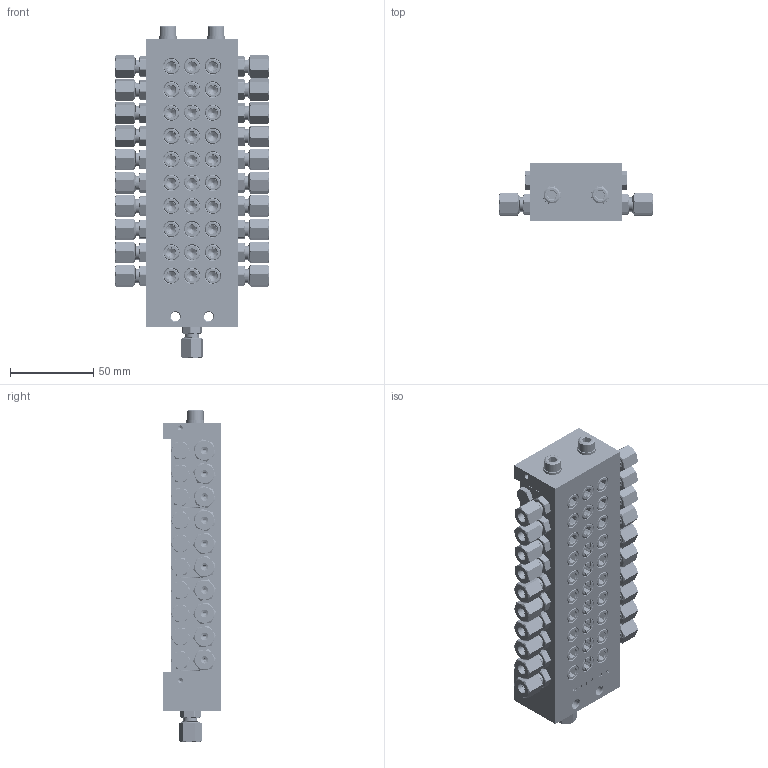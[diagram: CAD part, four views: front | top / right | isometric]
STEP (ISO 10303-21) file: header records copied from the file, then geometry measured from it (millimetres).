
FILE_DESCRIPTION (( 'STEP AP214' ), '1' );
FILE_NAME ('STW_XV_0143_20_0501_20_Auslässe.STEP', '2026-02-04T10:05:02', ( '' ), ( '' ), 'SwSTEP 2.0', 'SolidWorks 2022', '' );
FILE_SCHEMA (( 'AUTOMOTIVE_DESIGN' ));
Length unit declared in the file: millimetre
Products named in the file (14): 991214010601_Koerper; STW_XV_Verbindungsstopen; XV_Mittelelement; STW_XV_MITTEL_1; STW_XV_END; U_Scheibe_6; STW_XV_0143_20_0501_20_Auslässe; M6X65_DIN_912; Verschlussstopfen_1_8_2; 991214010601; 991214010601_Mutter; STW_XV_Kolbenanschlag; STW_XV_ENGANG; 991214010601_Schneidring
Assembly tree (61 placements, depth 3):
  STW_XV_0143_20_0501_20_Auslässe
    STW_XV_ENGANG
    STW_XV_MITTEL_1  x3
    STW_XV_END
    Verschlussstopfen_1_8_2  x6
    STW_XV_Kolbenanschlag  x6
    STW_XV_Verbindungsstopen  x3
    M6X65_DIN_912  x2
    U_Scheibe_6  x2
    991214010601  x21
      991214010601_Koerper
      991214010601_Schneidring
      991214010601_Mutter
    XV_Mittelelement  x7
      STW_XV_MITTEL_1
      STW_XV_Kolbenanschlag
      Verschlussstopfen_1_8_2
      STW_XV_Verbindungsstopen
Bounding box: 92.76 x 35 x 199.68 mm (x, y, z)
Volume: 309120.8 mm3; surface area: 191174.2 mm2
Topology: 129 solids, 129 shells, 4012 faces, 10139 edges, 6508 vertices
Faces by surface type: plane 1787, cylinder 1261, cone 722, bspline 222, torus 20
Full cylindrical faces by diameter (mm): 2 x257, 3 x17, 4.5 x21, 5 x101, 5.5 x2, 5.9 x2, 6 x23, 6.2 x43, 6.4 x2, 6.5 x20, 7 x20, 7.4 x21, 7.67 x21, 8 x41, 8.3 x21, 8.4 x10, 8.6 x50, 9 x42, 9.7 x20, 9.73 x10, 9.8 x147, 10 x22, 11 x2, 15 x1
Entity records: 40779 total; most frequent: CARTESIAN_POINT 20506, ORIENTED_EDGE 2738, DIRECTION 2357, EDGE_CURVE 1369, VERTEX_POINT 974, EDGE_LOOP 901, AXIS2_PLACEMENT_3D 829, FACE_OUTER_BOUND 724
